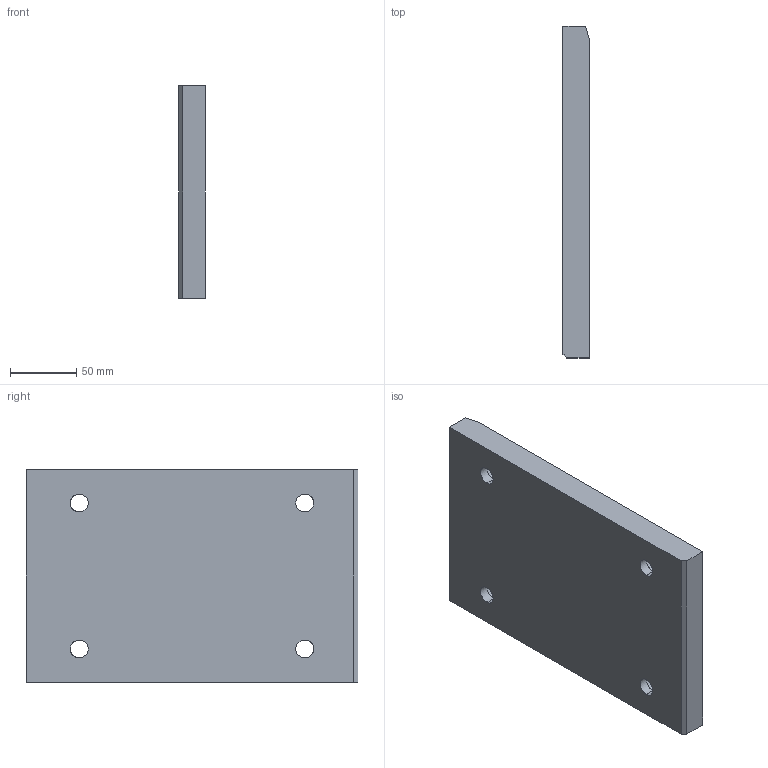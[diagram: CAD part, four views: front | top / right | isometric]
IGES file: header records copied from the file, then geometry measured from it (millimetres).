
Start section: START RECORD GO HERE.
Global section: file name: A915-160X250.igs; native system: DASSAULT SYSTEMES CATIA V5 R20 - www.3ds.com; preprocessor: CATIA Version 5 Release 20 ; author: Utente; organization: NB04-ASUS; date: 20200407.205301; units: millimetre
Bounding box: 20 x 250 x 160 mm (x, y, z)
Surface area: 98711.6 mm2 (no closed solid volume)
Topology: 0 solids, 0 shells, 37 faces, 170 edges, 170 vertices
Faces by surface type: revolution 25, extrusion 12
